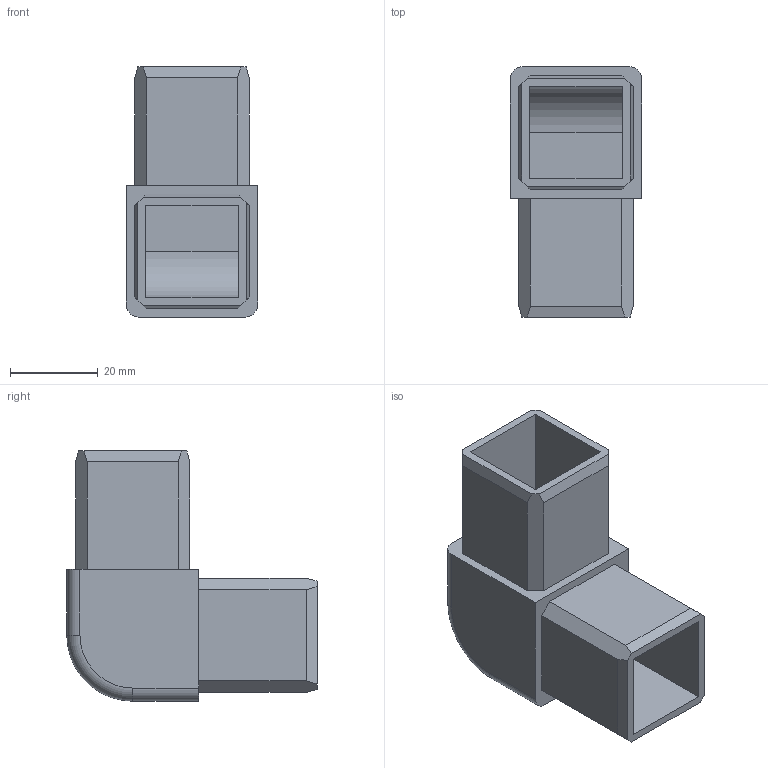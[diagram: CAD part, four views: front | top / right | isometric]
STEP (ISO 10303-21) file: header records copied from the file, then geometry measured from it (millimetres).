
FILE_DESCRIPTION (( 'STEP AP214' ), '1' );
FILE_NAME ('L15817.step', '2024-12-03T16:19:16', ( '' ), ( '' ), 'SwSTEP 2.0', 'SolidWorks 2023', '' );
FILE_SCHEMA (( 'AUTOMOTIVE_DESIGN' ));
Length unit declared in the file: millimetre
Products named in the file (1): L15817
Bounding box: 30 x 57 x 57 mm (x, y, z)
Volume: 24433.1 mm3; surface area: 16176.2 mm2
Topology: 1 solids, 1 shells, 46 faces, 122 edges, 80 vertices
Faces by surface type: plane 38, cylinder 6, torus 2
Entity records: 1435 total; most frequent: CARTESIAN_POINT 249, ORIENTED_EDGE 244, DIRECTION 230, EDGE_CURVE 122, VECTOR 108, LINE 108, VERTEX_POINT 80, AXIS2_PLACEMENT_3D 61
